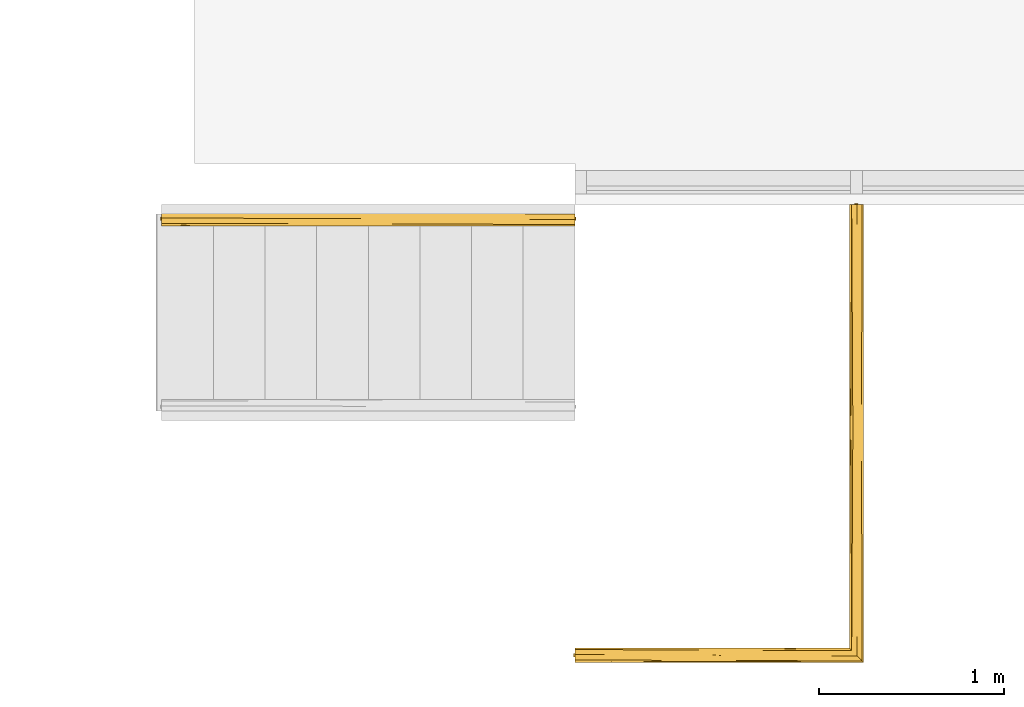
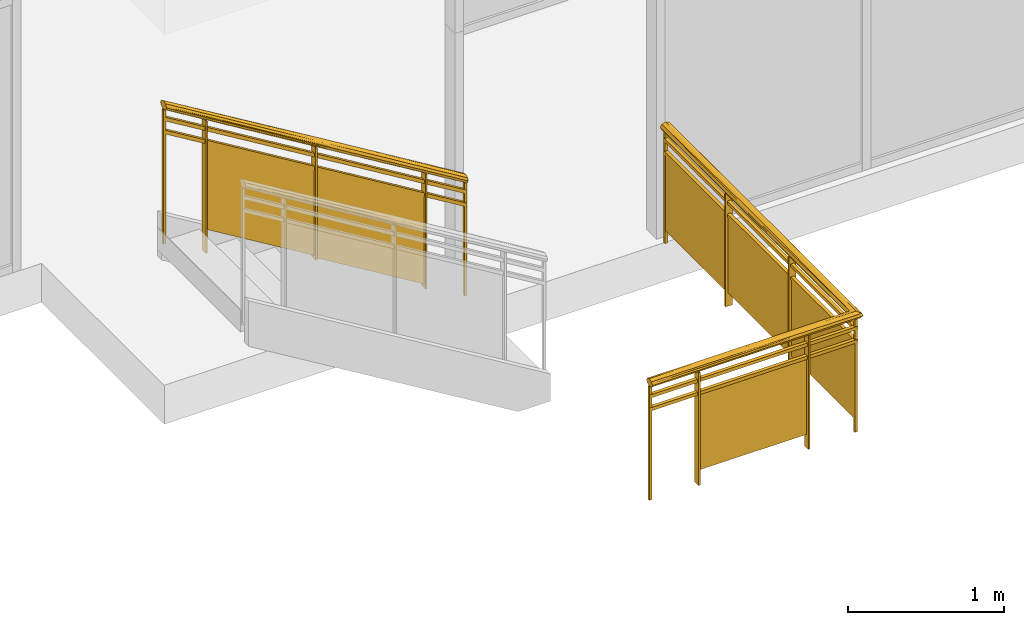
# One storey, part 10 of 11: 2 railings, 1 element without a shape of its own.
"""IFC2X3 building model written with IfcOpenShell, lengths in feet."""

from ifc_helpers import new_model, entity, si_unit, converted_unit, derived_unit, direction, frame, origin, place, context, subcontext, project, spatial, faceted_brep, material, material_list, element, aggregate, save


model = new_model("IFC2X3")

# Units and contexts
model_context = context("Model", 3, precision=0.0001, world=origin(), true_north=direction((6.12303176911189e-17, 1.0)))
body_context = subcontext(model_context, "Body", "Model", "MODEL_VIEW")
ifc_project = project(units=[converted_unit("LENGTHUNIT", "FOOT", entity("IfcRatioMeasure", 0.3048), si_unit("LENGTHUNIT", "METRE"), dimensions=[1, 0, 0, 0, 0, 0, 0]), converted_unit("AREAUNIT", "SQUARE FOOT", entity("IfcRatioMeasure", 0.09290304), si_unit("AREAUNIT", "SQUARE_METRE"), dimensions=[2, 0, 0, 0, 0, 0, 0]), converted_unit("VOLUMEUNIT", "CUBIC FOOT", entity("IfcRatioMeasure", 0.028316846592), si_unit("VOLUMEUNIT", "CUBIC_METRE"), dimensions=[3, 0, 0, 0, 0, 0, 0]), converted_unit("PLANEANGLEUNIT", "DEGREE", entity("IfcRatioMeasure", 0.0174532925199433), si_unit("PLANEANGLEUNIT", "RADIAN"), dimensions=[0, 0, 0, 0, 0, 0, 0]), si_unit("MASSUNIT", "GRAM", prefix="KILO"), derived_unit("MASSDENSITYUNIT", [(si_unit("MASSUNIT", "GRAM", prefix="KILO"), 1), (si_unit("LENGTHUNIT", "METRE"), -3)]), si_unit("TIMEUNIT", "SECOND"), si_unit("FREQUENCYUNIT", "HERTZ"), si_unit("THERMODYNAMICTEMPERATUREUNIT", "DEGREE_CELSIUS"), derived_unit("THERMALTRANSMITTANCEUNIT", [(si_unit("MASSUNIT", "GRAM", prefix="KILO"), 1), (si_unit("THERMODYNAMICTEMPERATUREUNIT", "KELVIN"), -1), (si_unit("TIMEUNIT", "SECOND"), -3)]), derived_unit("VOLUMETRICFLOWRATEUNIT", [(si_unit("LENGTHUNIT", "METRE"), 3), (si_unit("TIMEUNIT", "SECOND"), -1)]), si_unit("ELECTRICCURRENTUNIT", "AMPERE"), si_unit("ELECTRICVOLTAGEUNIT", "VOLT"), si_unit("POWERUNIT", "WATT"), si_unit("FORCEUNIT", "NEWTON"), si_unit("ILLUMINANCEUNIT", "LUX"), si_unit("LUMINOUSFLUXUNIT", "LUMEN"), si_unit("LUMINOUSINTENSITYUNIT", "CANDELA"), derived_unit("USERDEFINED", [(si_unit("MASSUNIT", "GRAM", prefix="KILO"), -1), (si_unit("LENGTHUNIT", "METRE"), -2), (si_unit("TIMEUNIT", "SECOND"), 3), (si_unit("LUMINOUSFLUXUNIT", "LUMEN"), 1)]), derived_unit("LINEARVELOCITYUNIT", [(si_unit("LENGTHUNIT", "METRE"), 1), (si_unit("TIMEUNIT", "SECOND"), -1)]), si_unit("PRESSUREUNIT", "PASCAL"), derived_unit("USERDEFINED", [(si_unit("LENGTHUNIT", "METRE"), -2), (si_unit("MASSUNIT", "GRAM", prefix="KILO"), 1), (si_unit("TIMEUNIT", "SECOND"), -2)])], contexts=[model_context])

# Site, building, storey
site_placement = place(None, origin())
site = spatial("IfcSite", under=ifc_project, at=site_placement, Name="Default", CompositionType="ELEMENT")
building_placement = place(site_placement, origin())
building = spatial("IfcBuilding", under=site, at=building_placement, CompositionType="ELEMENT")
storey_placement = place(building_placement, frame((0.0, 0.0, 50.0)))
storey = spatial("IfcBuildingStorey", under=building, at=storey_placement, Name="L 9", CompositionType="ELEMENT", Elevation=49.9999999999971)

# Railing
ifc_material_1 = material(Name="Glass")
ifc_material_2 = material(Name="alum - color")
ifc_material_list_1 = material_list([ifc_material_1, ifc_material_2])
railing_1_placement = place(storey_placement, frame((-21.679329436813, -15.4672084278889, 0.0)))
element("IfcRailing", 1, at=railing_1_placement, inside=storey, material=ifc_material_list_1, Name="Railing:Glass Panel - Bottom Fill", ObjectType="Railing:Glass Panel - Bottom Fill", PredefinedType="NOTDEFINED", context=body_context, shape_type="Brep", body=[
    faceted_brep([(1.20833333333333, 0.0469004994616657, 2.90577041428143), (1.20833333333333, 0.0469004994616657, 0.0), (1.20833333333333, 0.213567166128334, 0.0), (1.20833333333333, 0.213567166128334, 2.90577041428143), (1.16666666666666, 0.0469004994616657, 2.90577041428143), (1.16666666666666, 0.0469004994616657, 0.0), (1.16666666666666, 0.213567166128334, 2.90577041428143), (1.16666666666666, 0.213567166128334, 0.0)], [[[0, 1, 2, 3]], [[4, 5, 1, 0]], [[6, 7, 5, 4]], [[3, 2, 7, 6]], [[3, 6, 4, 0]], [[1, 5, 7, 2]]]),
    faceted_brep([(3.85416666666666, 0.15167463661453, 0.333333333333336), (1.18749999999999, 0.15167463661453, 0.333333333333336), (1.18749999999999, 0.15167463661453, 2.29166666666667), (3.85416666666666, 0.15167463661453, 2.29166666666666), (3.85416666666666, 0.130841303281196, 0.333333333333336), (3.85416666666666, 0.130841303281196, 2.29166666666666), (1.18749999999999, 0.130841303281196, 2.29166666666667), (1.18749999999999, 0.130841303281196, 0.333333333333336)], [[[0, 1, 2, 3]], [[4, 5, 6, 7]], [[3, 5, 4, 0]], [[2, 6, 5, 3]], [[1, 7, 6, 2]], [[0, 4, 7, 1]]]),
    faceted_brep([(3.87499999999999, 0.0469004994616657, 2.90577041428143), (3.87499999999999, 0.0469004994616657, 0.0), (3.87499999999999, 0.213567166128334, 0.0), (3.87499999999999, 0.213567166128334, 2.90577041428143), (3.83333333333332, 0.0469004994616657, 2.90577041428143), (3.83333333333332, 0.0469004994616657, 0.0), (3.83333333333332, 0.213567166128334, 2.90577041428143), (3.83333333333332, 0.213567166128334, 0.0)], [[[0, 1, 2, 3]], [[4, 5, 1, 0]], [[6, 7, 5, 4]], [[3, 2, 7, 6]], [[3, 6, 4, 0]], [[1, 5, 7, 2]]]),
    faceted_brep([(4.99939252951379, 2.79690049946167, 0.333333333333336), (4.99939252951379, 0.130233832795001, 0.333333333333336), (4.99939252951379, 0.130233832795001, 2.29166666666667), (4.99939252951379, 2.79690049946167, 2.29166666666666), (5.02022586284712, 2.79690049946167, 0.333333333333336), (5.02022586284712, 2.79690049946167, 2.29166666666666), (5.02022586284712, 0.130233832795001, 2.29166666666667), (5.02022586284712, 0.130233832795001, 0.333333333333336)], [[[0, 1, 2, 3]], [[4, 5, 6, 7]], [[3, 5, 4, 0]], [[2, 6, 5, 3]], [[1, 7, 6, 2]], [[0, 4, 7, 1]]]),
    faceted_brep([(5.10416666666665, 2.817733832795, 2.90577041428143), (5.10416666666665, 2.817733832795, 0.0), (4.93749999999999, 2.817733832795, 0.0), (4.93749999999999, 2.817733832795, 2.90577041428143), (5.10416666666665, 2.77606716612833, 2.90577041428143), (5.10416666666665, 2.77606716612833, 0.0), (4.93749999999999, 2.77606716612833, 2.90577041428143), (4.93749999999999, 2.77606716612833, 0.0)], [[[0, 1, 2, 3]], [[4, 5, 1, 0]], [[6, 7, 5, 4]], [[3, 2, 7, 6]], [[3, 6, 4, 0]], [[1, 5, 7, 2]]]),
    faceted_brep([(4.99939252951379, 5.46356716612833, 0.333333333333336), (4.99939252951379, 2.79690049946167, 0.333333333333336), (4.99939252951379, 2.79690049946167, 2.29166666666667), (4.99939252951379, 5.46356716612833, 2.29166666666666), (5.02022586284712, 5.46356716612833, 0.333333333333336), (5.02022586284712, 5.46356716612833, 2.29166666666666), (5.02022586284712, 2.79690049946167, 2.29166666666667), (5.02022586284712, 2.79690049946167, 0.333333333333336)], [[[0, 1, 2, 3]], [[4, 5, 6, 7]], [[3, 5, 4, 0]], [[2, 6, 5, 3]], [[1, 7, 6, 2]], [[0, 4, 7, 1]]]),
    faceted_brep([(5.10416666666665, 5.48440049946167, 2.90577041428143), (5.10416666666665, 5.48440049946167, 0.0), (4.93749999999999, 5.48440049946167, 0.0), (4.93749999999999, 5.48440049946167, 2.90577041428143), (5.10416666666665, 5.442733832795, 2.90577041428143), (5.10416666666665, 5.442733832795, 0.0), (4.93749999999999, 5.442733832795, 2.90577041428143), (4.93749999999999, 5.442733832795, 0.0)], [[[0, 1, 2, 3]], [[4, 5, 1, 0]], [[6, 7, 5, 4]], [[3, 2, 7, 6]], [[3, 6, 4, 0]], [[1, 5, 7, 2]]]),
    faceted_brep([(4.99939252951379, 8.130233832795, 0.333333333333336), (4.99939252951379, 5.46356716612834, 0.333333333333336), (4.99939252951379, 5.46356716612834, 2.29166666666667), (4.99939252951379, 8.130233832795, 2.29166666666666), (5.02022586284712, 8.130233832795, 0.333333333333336), (5.02022586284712, 8.130233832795, 2.29166666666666), (5.02022586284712, 5.46356716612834, 2.29166666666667), (5.02022586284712, 5.46356716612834, 0.333333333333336)], [[[0, 1, 2, 3]], [[4, 5, 6, 7]], [[3, 5, 4, 0]], [[2, 6, 5, 3]], [[1, 7, 6, 2]], [[0, 4, 7, 1]]]),
    faceted_brep([(5.05208333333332, 0.161483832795, 2.90577041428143), (5.05208333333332, 0.161483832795, 0.0), (4.98958333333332, 0.161483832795, 0.0), (4.98958333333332, 0.161483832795, 2.90577041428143), (5.05208333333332, 0.0989838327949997, 2.90577041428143), (5.05208333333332, 0.0989838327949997, 0.0), (4.98958333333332, 0.0989838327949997, 2.90577041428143), (4.98958333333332, 0.0989838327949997, 0.0)], [[[0, 1, 2, 3]], [[4, 5, 1, 0]], [[6, 7, 5, 4]], [[3, 2, 7, 6]], [[3, 6, 4, 0]], [[1, 5, 7, 2]]]),
    faceted_brep([(0.0625, 0.0989838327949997, 2.90577041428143), (0.0625, 0.0989838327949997, 0.0), (0.0625, 0.161483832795, 0.0), (0.0625, 0.161483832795, 2.90577041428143), (0.0, 0.0989838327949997, 2.90577041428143), (0.0, 0.0989838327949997, 0.0), (0.0, 0.161483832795, 2.90577041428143), (0.0, 0.161483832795, 0.0)], [[[0, 1, 2, 3]], [[4, 5, 1, 0]], [[6, 7, 5, 4]], [[3, 2, 7, 6]], [[3, 6, 4, 0]], [[1, 5, 7, 2]]]),
    faceted_brep([(5.05208333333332, 8.15106716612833, 2.90577041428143), (5.05208333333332, 8.15106716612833, 0.0), (4.98958333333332, 8.15106716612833, 0.0), (4.98958333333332, 8.15106716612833, 2.90577041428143), (5.05208333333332, 8.08856716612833, 2.90577041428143), (5.05208333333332, 8.08856716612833, 0.0), (4.98958333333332, 8.08856716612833, 2.90577041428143), (4.98958333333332, 8.08856716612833, 0.0)], [[[0, 1, 2, 3]], [[4, 5, 1, 0]], [[6, 7, 5, 4]], [[3, 2, 7, 6]], [[3, 6, 4, 0]], [[1, 5, 7, 2]]]),
    faceted_brep([(5.06249999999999, 8.130233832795, 2.70833333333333), (5.06249999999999, 8.130233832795, 2.62499999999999), (4.97916666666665, 8.130233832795, 2.625), (4.97916666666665, 8.130233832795, 2.70833333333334), (4.97916666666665, 0.171900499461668, 2.70833333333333), (5.06249999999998, 0.0885671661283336, 2.70833333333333), (4.97916666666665, 0.171900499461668, 2.625), (5.06249999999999, 0.0885671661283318, 2.625), (0.0208333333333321, 0.0885671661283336, 2.70833333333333), (0.0208333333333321, 0.171900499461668, 2.70833333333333), (0.0208333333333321, 0.171900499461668, 2.625), (0.0208333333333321, 0.0885671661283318, 2.625)], [[[0, 1, 2, 3]], [[0, 3, 4, 5]], [[3, 2, 6, 4]], [[2, 1, 7, 6]], [[1, 0, 5, 7]], [[8, 9, 10, 11]], [[5, 4, 9, 8]], [[4, 6, 10, 9]], [[6, 7, 11, 10]], [[7, 5, 8, 11]]]),
    faceted_brep([(5.06249999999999, 8.130233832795, 2.375), (5.06249999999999, 8.130233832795, 2.29166666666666), (4.97916666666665, 8.130233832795, 2.29166666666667), (4.97916666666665, 8.130233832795, 2.37500000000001), (4.97916666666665, 0.171900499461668, 2.375), (5.06249999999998, 0.0885671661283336, 2.375), (4.97916666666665, 0.171900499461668, 2.29166666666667), (5.06249999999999, 0.0885671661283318, 2.29166666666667), (0.0208333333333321, 0.0885671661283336, 2.375), (0.0208333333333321, 0.171900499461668, 2.375), (0.0208333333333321, 0.171900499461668, 2.29166666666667), (0.0208333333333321, 0.0885671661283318, 2.29166666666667)], [[[0, 1, 2, 3]], [[0, 3, 4, 5]], [[3, 2, 6, 4]], [[2, 1, 7, 6]], [[1, 0, 5, 7]], [[8, 9, 10, 11]], [[5, 4, 9, 8]], [[4, 6, 10, 9]], [[6, 7, 11, 10]], [[7, 5, 8, 11]]]),
    faceted_brep([(5.00776727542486, 8.130233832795, 2.90676357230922), (4.96373674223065, 8.130233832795, 2.92582935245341), (4.91970620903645, 8.130233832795, 2.94489513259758), (4.90776977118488, 8.130233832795, 2.97244756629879), (4.89583333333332, 8.130233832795, 3.0), (4.91651267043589, 8.130233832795, 3.03483491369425), (4.93719200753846, 8.130233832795, 3.06966982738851), (4.98554569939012, 8.130233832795, 3.08145312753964), (5.03389939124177, 8.130233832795, 3.09323642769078), (5.07792992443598, 8.130233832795, 3.07417064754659), (5.12196045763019, 8.130233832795, 3.05510486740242), (5.13389689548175, 8.130233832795, 3.02755243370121), (5.14583333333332, 8.130233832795, 3.0), (5.12515399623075, 8.130233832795, 2.96516508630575), (5.10447465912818, 8.130233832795, 2.9303301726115), (5.05612096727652, 8.130233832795, 2.91854687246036), (5.03389939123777, 4.13676685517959, 2.90676357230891), (4.90776977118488, 0.243297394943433, 2.97244756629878), (4.90949198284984, 4.18079739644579, 2.95738769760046), (4.91970620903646, 0.231360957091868, 2.94489513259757), (5.12515399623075, 0.0259131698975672, 2.96516508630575), (5.12196045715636, 4.08841313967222, 2.94489513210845), (5.13760764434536, 4.07807343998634, 2.96655336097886), (5.10447465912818, 0.0465925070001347, 2.9303301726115), (5.08353660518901, 4.08841318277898, 2.91889832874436), (4.98240730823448, 4.13676686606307, 2.91078958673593), (4.92954232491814, 4.18079739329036, 2.93595969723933), (4.89924080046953, 3.78364768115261, 2.97825962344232), (5.08029781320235, 0.0707693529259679, 2.92443852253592), (5.05612096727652, 0.0949461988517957, 2.91854687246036), (4.96373674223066, 0.187330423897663, 2.9258293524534), (4.95384112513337, 4.20738820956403, 2.92085085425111), (4.90671106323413, 0.244356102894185, 2.97489134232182), (4.89583333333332, 0.255233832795, 3.0), (5.00776727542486, 0.143299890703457, 2.90676357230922), (4.89583333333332, 4.55774049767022, 3.0), (4.89583333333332, 4.61312962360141, 3.0), (5.14583333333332, 3.57772891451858, 3.0), (5.14583333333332, 3.52232689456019, 3.0), (5.14583333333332, 0.00523383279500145, 3.0), (5.03194412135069, 0.119123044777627, 2.91265522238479), (4.98554569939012, 0.1655214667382, 3.08145312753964), (5.03389939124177, 0.117167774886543, 3.09323642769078), (5.00776727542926, 4.14787766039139, 3.09323642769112), (5.13220914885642, 4.07967027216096, 3.04256160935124), (5.12196045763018, 0.0291067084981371, 3.05510486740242), (5.13389689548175, 0.0171702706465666, 3.02755243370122), (5.13732804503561, 0.0137391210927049, 3.01963243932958), (4.91651267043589, 0.234554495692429, 3.03483491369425), (4.93719200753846, 0.213875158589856, 3.06966982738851), (4.91976425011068, 4.17205446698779, 3.05516473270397), (4.95833333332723, 4.17205450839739, 3.08118988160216), (5.14248572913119, 4.56614973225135, 3.02155117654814), (5.07792992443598, 0.0731372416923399, 3.07417064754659), (5.05966322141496, 4.10168553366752, 3.08911199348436), (4.90446656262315, 4.18239410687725, 3.03423628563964), (5.11132213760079, 4.07967026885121, 3.06467755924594), (5.08751696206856, 4.29614994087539, 3.07929558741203), (4.9096181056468, 0.241449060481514, 3.02322082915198), (0.0208333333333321, 0.234554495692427, 2.96516508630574), (0.0208333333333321, 0.213875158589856, 2.93033017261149), (0.0208333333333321, 0.165521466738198, 2.91854687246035), (0.0208333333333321, 0.117167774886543, 2.90676357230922), (0.0208333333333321, 0.0731372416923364, 2.92582935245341), (0.0208333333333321, 0.0291067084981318, 2.94489513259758), (0.0208333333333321, 0.0171702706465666, 2.97244756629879), (0.0208333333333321, 0.00523383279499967, 3.0), (0.0208333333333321, 0.0259131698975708, 3.03483491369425), (0.0208333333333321, 0.0465925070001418, 3.06966982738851), (0.0208333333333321, 0.0949461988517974, 3.08145312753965), (0.0208333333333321, 0.143299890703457, 3.09323642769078), (0.0208333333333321, 0.187330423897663, 3.07417064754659), (0.0208333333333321, 0.231360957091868, 3.05510486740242), (0.0208333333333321, 0.243297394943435, 3.02755243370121), (0.0208333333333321, 0.255233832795, 3.0), (2.55056556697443, 0.0564588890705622, 2.92431961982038), (2.89626214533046, 0.0307681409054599, 2.94321961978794), (2.24295494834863, 0.197520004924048, 2.92099124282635), (2.43610950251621, 0.223804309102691, 2.93783786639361), (2.52687111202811, 0.0145921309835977, 2.96440859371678), (2.43656163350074, 0.132589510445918, 2.90626664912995), (2.32621046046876, 0.0979297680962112, 2.90943475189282), (2.7451067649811, 0.242343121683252, 2.95853573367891), (2.84265886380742, 0.165863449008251, 2.9101390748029), (2.05852276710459, 0.255233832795, 3.0), (2.78807614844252, 0.255233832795, 3.0), (2.8581440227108, 0.00523383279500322, 3.0), (2.37859063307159, 0.00523383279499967, 3.0), (2.24867187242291, 0.241609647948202, 3.04256160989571), (2.45069101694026, 0.222558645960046, 3.0632011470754), (2.2446154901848, 0.251872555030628, 3.02159454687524), (2.8012855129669, 0.19570759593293, 3.07986069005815), (2.76071940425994, 0.0180983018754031, 3.04142433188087), (2.54570818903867, 0.130792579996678, 3.09374906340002), (2.22597134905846, 0.164339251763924, 3.09019298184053), (2.80818823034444, 0.0959444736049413, 3.09015374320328), (2.58446056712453, 0.0376121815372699, 3.0629563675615), (2.26544877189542, 0.0639929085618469, 3.07950403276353)], [[[0, 1, 2, 3, 4, 5, 6, 7, 8, 9, 10, 11, 12, 13, 14, 15]], [[16, 0, 15]], [[17, 18, 19]], [[20, 21, 22]], [[2, 18, 3]], [[22, 13, 12]], [[23, 24, 21]], [[16, 25, 0]], [[19, 18, 26]], [[17, 27, 18]], [[24, 23, 28, 29]], [[30, 31, 25]], [[2, 26, 18]], [[27, 17, 32, 33]], [[31, 1, 25]], [[24, 16, 15]], [[34, 30, 25]], [[27, 4, 3]], [[21, 14, 13]], [[19, 26, 30]], [[26, 2, 1]], [[27, 33, 35, 36, 4]], [[18, 27, 3]], [[34, 25, 16]], [[0, 25, 1]], [[14, 21, 24]], [[23, 21, 20]], [[21, 13, 22]], [[22, 12, 37, 38, 39]], [[14, 24, 15]], [[16, 29, 40, 34]], [[29, 16, 24]], [[31, 26, 1]], [[26, 31, 30]], [[20, 22, 39]], [[41, 42, 43]], [[44, 45, 46, 47]], [[48, 49, 50]], [[47, 39, 38]], [[50, 6, 5]], [[7, 6, 51]], [[49, 41, 51]], [[52, 38, 37, 12]], [[52, 11, 44]], [[53, 54, 42]], [[8, 54, 9]], [[11, 10, 44]], [[50, 5, 55]], [[7, 43, 8]], [[10, 56, 44]], [[9, 56, 10]], [[52, 44, 47]], [[55, 4, 36, 35, 33]], [[45, 44, 56]], [[56, 53, 45]], [[57, 54, 53]], [[11, 52, 12]], [[38, 52, 47]], [[43, 7, 51]], [[49, 51, 50]], [[54, 8, 43]], [[41, 43, 51]], [[50, 55, 48]], [[6, 50, 51]], [[5, 4, 55]], [[43, 42, 54]], [[9, 54, 57]], [[55, 33, 58, 48]], [[57, 56, 9]], [[56, 57, 53]], [[59, 60, 61, 62, 63, 64, 65, 66, 67, 68, 69, 70, 71, 72, 73, 74]], [[75, 76, 64]], [[77, 60, 78]], [[79, 65, 64]], [[62, 80, 81]], [[82, 32, 17, 19]], [[80, 83, 34]], [[80, 40, 81]], [[77, 61, 60]], [[83, 77, 30]], [[30, 77, 78]], [[32, 84, 85, 33]], [[19, 78, 82]], [[60, 59, 78]], [[82, 59, 84]], [[30, 78, 19]], [[74, 84, 59]], [[82, 78, 59]], [[32, 82, 84]], [[61, 77, 83]], [[62, 61, 80]], [[34, 83, 30]], [[83, 80, 61]], [[28, 23, 75]], [[28, 75, 81]], [[63, 81, 75]], [[81, 63, 62]], [[29, 28, 81, 40]], [[80, 34, 40]], [[75, 64, 63]], [[79, 20, 39]], [[86, 79, 39]], [[76, 75, 23]], [[76, 23, 20]], [[76, 79, 64]], [[76, 20, 79]], [[65, 86, 87, 66]], [[65, 79, 86]], [[73, 72, 88]], [[89, 49, 48]], [[48, 90, 88]], [[89, 48, 88]], [[90, 85, 84, 74]], [[58, 33, 85]], [[71, 91, 89]], [[91, 41, 49]], [[87, 92, 67]], [[70, 93, 94]], [[93, 69, 95]], [[96, 68, 67]], [[49, 89, 91]], [[69, 93, 70]], [[89, 88, 72]], [[90, 48, 58]], [[89, 72, 71]], [[91, 71, 94]], [[41, 91, 94]], [[73, 88, 90]], [[73, 90, 74]], [[85, 90, 58]], [[95, 69, 97]], [[70, 94, 71]], [[42, 41, 93]], [[94, 93, 41]], [[68, 96, 97]], [[95, 42, 93]], [[95, 53, 42]], [[53, 95, 97]], [[45, 92, 46]], [[68, 97, 69]], [[45, 53, 96]], [[97, 96, 53]], [[67, 66, 87]], [[67, 92, 96]], [[46, 87, 86, 39, 47]], [[96, 92, 45]], [[46, 92, 87]]]),
])

# Stair, railing
stair_placement = place(storey_placement, origin())
stair = element("IfcStair", 2, at=stair_placement, inside=storey, Name="Assembled Stair:Stair", ObjectType="Assembled Stair:7\" max riser 11\" tread", ShapeType="NOTDEFINED")
ifc_material_list_2 = material_list([ifc_material_1, ifc_material_2])
railing_2_placement = place(stair_placement, frame((-29.0126627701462, -7.7172084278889, 0.555555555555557)))
railing_2 = element("IfcRailing", 3, at=railing_2_placement, material=ifc_material_list_2, Name="Railing:Glass Panel - Bottom Fill", ObjectType="Railing:Glass Panel - Bottom Fill", PredefinedType="NOTDEFINED", context=body_context, shape_type="Brep", body=[
    faceted_brep([(1.04166666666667, 0.213567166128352, 6.71557302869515), (1.04166666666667, 0.0469004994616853, 6.71557302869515), (1.04166666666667, 0.0469004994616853, 3.33333333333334), (1.04166666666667, 0.213567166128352, 3.33333333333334), (1.0, 0.213567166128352, 6.74082555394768), (1.0, 0.213567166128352, 3.33333333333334), (1.0, 0.0469004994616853, 6.74082555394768), (1.0, 0.0469004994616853, 3.33333333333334)], [[[0, 1, 2, 3]], [[4, 0, 3, 5]], [[6, 4, 5, 7]], [[1, 6, 7, 2]], [[1, 0, 4, 6]], [[3, 2, 7, 5]]]),
    faceted_brep([(3.6875, 0.108793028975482, 2.30303030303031), (3.6875, 0.108793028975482, 4.50683388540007), (1.02083333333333, 0.10879302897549, 6.12299550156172), (1.02083333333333, 0.10879302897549, 3.91919191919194), (3.6875, 0.129626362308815, 2.30303030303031), (1.02083333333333, 0.129626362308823, 3.91919191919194), (1.02083333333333, 0.129626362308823, 6.12299550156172), (3.6875, 0.129626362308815, 4.50683388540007)], [[[0, 1, 2, 3]], [[4, 5, 6, 7]], [[1, 0, 4, 7]], [[2, 1, 7, 6]], [[3, 2, 6, 5]], [[0, 3, 5, 4]]]),
    faceted_brep([(3.70833333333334, 0.213567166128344, 5.09941141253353), (3.70833333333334, 0.0469004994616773, 5.09941141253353), (3.70833333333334, 0.0469004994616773, 2.22222222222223), (3.70833333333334, 0.213567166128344, 2.22222222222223), (3.66666666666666, 0.213567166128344, 5.12466393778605), (3.66666666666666, 0.213567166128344, 2.22222222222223), (3.66666666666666, 0.0469004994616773, 5.12466393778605), (3.66666666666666, 0.0469004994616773, 2.22222222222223)], [[[0, 1, 2, 3]], [[4, 0, 3, 5]], [[6, 4, 5, 7]], [[1, 6, 7, 2]], [[1, 0, 4, 6]], [[3, 2, 7, 5]]]),
    faceted_brep([(6.35416666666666, 0.108793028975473, 0.636363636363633), (6.35416666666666, 0.108793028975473, 2.89067226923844), (3.6875, 0.108793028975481, 4.50683388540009), (3.6875, 0.108793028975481, 2.25252525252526), (6.35416666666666, 0.129626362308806, 0.636363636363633), (3.6875, 0.129626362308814, 2.25252525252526), (3.6875, 0.129626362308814, 4.50683388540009), (6.35416666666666, 0.129626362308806, 2.89067226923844)], [[[0, 1, 2, 3]], [[4, 5, 6, 7]], [[1, 0, 4, 7]], [[2, 1, 7, 6]], [[3, 2, 6, 5]], [[0, 3, 5, 4]]]),
    faceted_brep([(6.375, 0.213567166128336, 3.48324979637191), (6.375, 0.0469004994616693, 3.48324979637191), (6.375, 0.0469004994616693, 0.555555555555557), (6.375, 0.213567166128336, 0.555555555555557), (6.33333333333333, 0.213567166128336, 3.50850232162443), (6.33333333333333, 0.213567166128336, 0.555555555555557), (6.33333333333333, 0.0469004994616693, 3.50850232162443), (6.33333333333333, 0.0469004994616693, 0.555555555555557)], [[[0, 1, 2, 3]], [[4, 0, 3, 5]], [[6, 4, 5, 7]], [[1, 6, 7, 2]], [[1, 0, 4, 6]], [[3, 2, 7, 5]]]),
    faceted_brep([(0.0625, 0.161483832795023, 7.3090073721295), (0.0625, 0.0989838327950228, 7.3090073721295), (0.0625, 0.0989838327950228, 3.8888888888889), (0.0625, 0.161483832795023, 3.8888888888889), (0.0, 0.161483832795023, 7.34688616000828), (0.0, 0.161483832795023, 3.8888888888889), (0.0, 0.0989838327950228, 7.34688616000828), (0.0, 0.0989838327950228, 3.8888888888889)], [[[0, 1, 2, 3]], [[4, 0, 3, 5]], [[6, 4, 5, 7]], [[1, 6, 7, 2]], [[1, 0, 4, 6]], [[3, 2, 7, 5]]]),
    faceted_brep([(7.375, 0.161483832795, 2.8771891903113), (7.375, 0.0989838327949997, 2.8771891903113), (7.375, 0.0989838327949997, 0.0), (7.375, 0.161483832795, 0.0), (7.3125, 0.161483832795, 2.91506797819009), (7.3125, 0.161483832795, 0.0), (7.3125, 0.0989838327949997, 2.91506797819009), (7.3125, 0.0989838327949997, 0.0)], [[[0, 1, 2, 3]], [[4, 0, 3, 5]], [[6, 4, 5, 7]], [[1, 6, 7, 2]], [[1, 0, 4, 6]], [[3, 2, 7, 5]]]),
    faceted_brep([(7.35416666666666, 0.171900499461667, 2.71538833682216), (7.35416666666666, 0.0885671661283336, 2.71538833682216), (7.35416666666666, 0.0885671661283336, 2.61794499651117), (7.35416666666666, 0.171900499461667, 2.61794499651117), (0.0208333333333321, 0.17190049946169, 7.15983278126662), (0.0208333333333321, 0.17190049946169, 7.06238944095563), (0.0208333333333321, 0.0885671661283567, 7.06238944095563), (0.0208333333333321, 0.0885671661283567, 7.15983278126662)], [[[0, 1, 2, 3]], [[4, 5, 6, 7]], [[1, 0, 4, 7]], [[2, 1, 7, 6]], [[3, 2, 6, 5]], [[0, 3, 5, 4]]]),
    faceted_brep([(7.35416666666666, 0.171900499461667, 2.38205500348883), (7.35416666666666, 0.0885671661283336, 2.38205500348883), (7.35416666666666, 0.0885671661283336, 2.28461166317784), (7.35416666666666, 0.171900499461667, 2.28461166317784), (0.0208333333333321, 0.17190049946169, 6.82649944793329), (0.0208333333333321, 0.17190049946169, 6.7290561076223), (0.0208333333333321, 0.0885671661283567, 6.7290561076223), (0.0208333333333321, 0.0885671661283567, 6.82649944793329)], [[[0, 1, 2, 3]], [[4, 5, 6, 7]], [[1, 0, 4, 7]], [[2, 1, 7, 6]], [[3, 2, 6, 5]], [[0, 3, 5, 4]]]),
    faceted_brep([(7.35416666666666, 0.213875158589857, 3.08146632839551), (7.35416666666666, 0.165521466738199, 3.09524477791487), (7.35416666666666, 0.117167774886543, 3.10902322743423), (7.35416666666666, 0.0731372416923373, 3.08672922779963), (7.35416666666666, 0.0291067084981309, 3.06443522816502), (7.35416666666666, 0.0171702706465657, 3.03221761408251), (7.35416666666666, 0.00523383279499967, 3.0), (7.35416666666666, 0.0259131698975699, 2.95926683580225), (7.35416666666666, 0.0465925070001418, 2.91853367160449), (7.35416666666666, 0.0949461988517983, 2.90475522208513), (7.35416666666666, 0.119123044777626, 2.89786599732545), (7.35416666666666, 0.143299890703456, 2.89097677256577), (7.35416666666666, 0.187330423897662, 2.91327077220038), (7.35416666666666, 0.231360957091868, 2.93556477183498), (7.35416666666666, 0.243297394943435, 2.96778238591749), (7.35416666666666, 0.255233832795, 3.0), (7.35416666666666, 0.234554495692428, 3.04073316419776), (0.0208333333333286, 0.234554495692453, 7.4037112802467), (0.0208333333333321, 0.21387515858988, 7.36297811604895), (0.0208333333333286, 0.165521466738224, 7.34919966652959), (0.0208333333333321, 0.117167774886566, 7.33542121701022), (0.0208333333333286, 0.0731372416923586, 7.35771521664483), (0.0208333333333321, 0.029106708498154, 7.38000921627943), (0.0208333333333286, 0.017170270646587, 7.41222683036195), (0.0208333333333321, 0.00523383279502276, 7.44444444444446), (0.020833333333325, 0.0160886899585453, 7.46582582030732), (0.0208333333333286, 0.0259131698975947, 7.48517760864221), (0.0208333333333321, 0.0465925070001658, 7.52591077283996), (0.0208333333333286, 0.0949461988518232, 7.53968922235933), (0.0208333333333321, 0.14329989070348, 7.55346767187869), (0.0208333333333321, 0.165315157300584, 7.54232067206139), (0.0208333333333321, 0.187330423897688, 7.53117367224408), (0.0208333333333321, 0.231360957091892, 7.50887967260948), (0.0208333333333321, 0.243297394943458, 7.47666205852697), (0.0208333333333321, 0.255233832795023, 7.44444444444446), (3.67470945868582, 0.0137122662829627, 5.19028869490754), (3.50252181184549, 0.082955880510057, 5.23284993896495), (3.45921612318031, 0.0528675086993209, 5.27447257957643), (4.29628493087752, 0.0291542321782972, 4.78876910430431), (4.21551950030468, 0.00523383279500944, 4.90221040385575), (3.15949109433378, 0.00523383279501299, 5.54222761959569), (3.33385169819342, 0.197494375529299, 5.34415364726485), (4.14914124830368, 0.165864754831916, 4.8373638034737), (3.68570699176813, 0.130266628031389, 5.11368513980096), (3.64781981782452, 0.223695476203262, 5.17347577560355), (3.92848502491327, 0.242734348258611, 5.02838773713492), (4.2155004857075, 0.255233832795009, 4.90222192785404), (3.82716822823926, 0.248958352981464, 5.17187272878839), (4.04455402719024, 0.234486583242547, 5.06630868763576), (3.23018888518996, 0.211415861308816, 5.58273826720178), (3.68909777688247, 0.181027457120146, 5.32141906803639), (4.18350805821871, 0.00868237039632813, 4.94718335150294), (3.83159048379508, 0.133323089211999, 5.24448493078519), (3.94783373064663, 0.0988442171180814, 5.17055526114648), (3.77597728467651, 0.0386138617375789, 5.24317359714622), (3.99573411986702, 0.0188155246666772, 5.08510860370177), (3.11455551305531, 0.0671397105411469, 5.66409552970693)], [[[0, 1, 2, 3, 4, 5, 6, 7, 8, 9, 10, 11, 12, 13, 14, 15, 16]], [[17, 18, 19, 20, 21, 22, 23, 24, 25, 26, 27, 28, 29, 30, 31, 32, 33, 34]], [[35, 7, 6]], [[9, 8, 36, 10]], [[22, 37, 38]], [[37, 36, 8]], [[21, 36, 37]], [[35, 6, 39, 40]], [[41, 42, 19]], [[38, 7, 35]], [[19, 42, 43]], [[44, 41, 18]], [[13, 45, 14]], [[8, 38, 37]], [[44, 12, 41]], [[38, 8, 7]], [[11, 43, 42]], [[17, 34, 46]], [[35, 23, 22]], [[11, 10, 43]], [[40, 24, 23]], [[21, 37, 22]], [[36, 21, 20]], [[36, 20, 43]], [[36, 43, 10]], [[43, 20, 19]], [[42, 12, 11]], [[12, 42, 41]], [[13, 12, 44]], [[18, 41, 19]], [[46, 15, 14]], [[44, 18, 17]], [[17, 45, 44]], [[38, 35, 22]], [[45, 17, 46]], [[23, 35, 40]], [[44, 45, 13]], [[14, 45, 46]], [[16, 47, 48]], [[0, 48, 49]], [[49, 31, 50]], [[31, 30, 50]], [[51, 26, 25]], [[2, 52, 53]], [[54, 27, 26]], [[54, 55, 4]], [[26, 51, 55]], [[47, 16, 15]], [[54, 26, 55]], [[5, 4, 55]], [[25, 24, 40, 39]], [[56, 54, 3]], [[56, 3, 53]], [[50, 0, 49]], [[27, 54, 56]], [[51, 39, 6]], [[53, 52, 28]], [[54, 4, 3]], [[56, 28, 27]], [[28, 56, 53]], [[5, 55, 51]], [[29, 28, 52]], [[2, 53, 3]], [[30, 29, 52]], [[52, 2, 1]], [[1, 0, 50]], [[52, 50, 30]], [[1, 50, 52]], [[49, 32, 31]], [[32, 49, 48]], [[33, 48, 47]], [[16, 48, 0]], [[46, 34, 47, 15]], [[33, 32, 48]], [[33, 47, 34]], [[5, 51, 6]], [[39, 51, 25]]]),
])
aggregate(stair, [railing_2])

save(model, "model.ifc")
